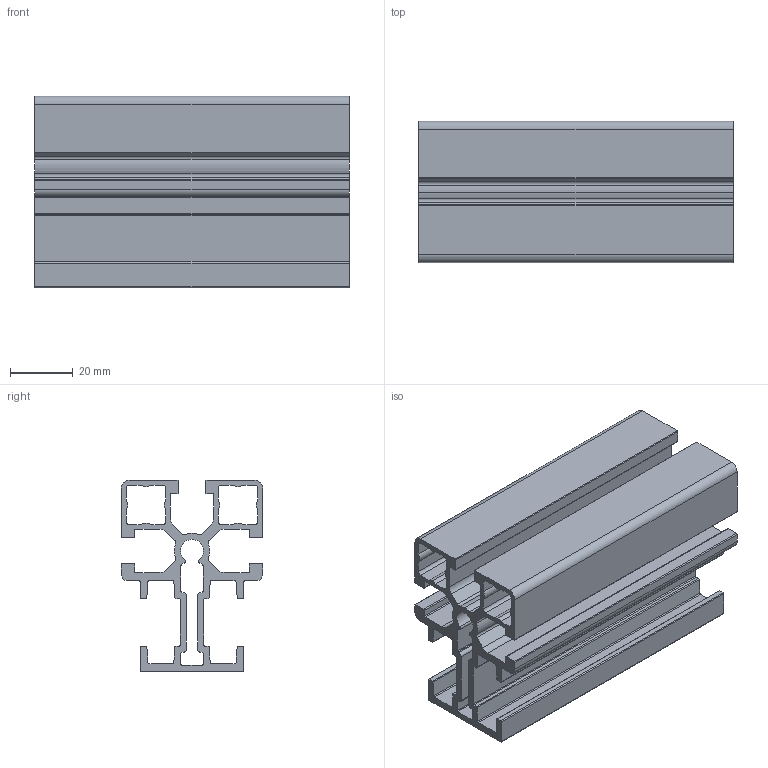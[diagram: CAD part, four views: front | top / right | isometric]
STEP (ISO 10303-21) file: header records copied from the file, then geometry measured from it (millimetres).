
FILE_DESCRIPTION (( 'STEP AP214' ), '1' );
FILE_NAME ('084.101.034.STEP', '2020-07-23T07:24:57', ( '' ), ( '' ), 'SwSTEP 2.0', 'SolidWorks 2018', '' );
FILE_SCHEMA (( 'AUTOMOTIVE_DESIGN' ));
Length unit declared in the file: millimetre
Products named in the file (1): 084.101.034
Bounding box: 100 x 45 x 61 mm (x, y, z)
Volume: 70249.5 mm3; surface area: 63049.1 mm2
Topology: 1 solids, 1 shells, 190 faces, 564 edges, 376 vertices
Faces by surface type: cylinder 100, plane 90
Entity records: 6474 total; most frequent: DIRECTION 1146, CARTESIAN_POINT 1131, ORIENTED_EDGE 1128, EDGE_CURVE 564, AXIS2_PLACEMENT_3D 391, VERTEX_POINT 376, VECTOR 364, LINE 364
